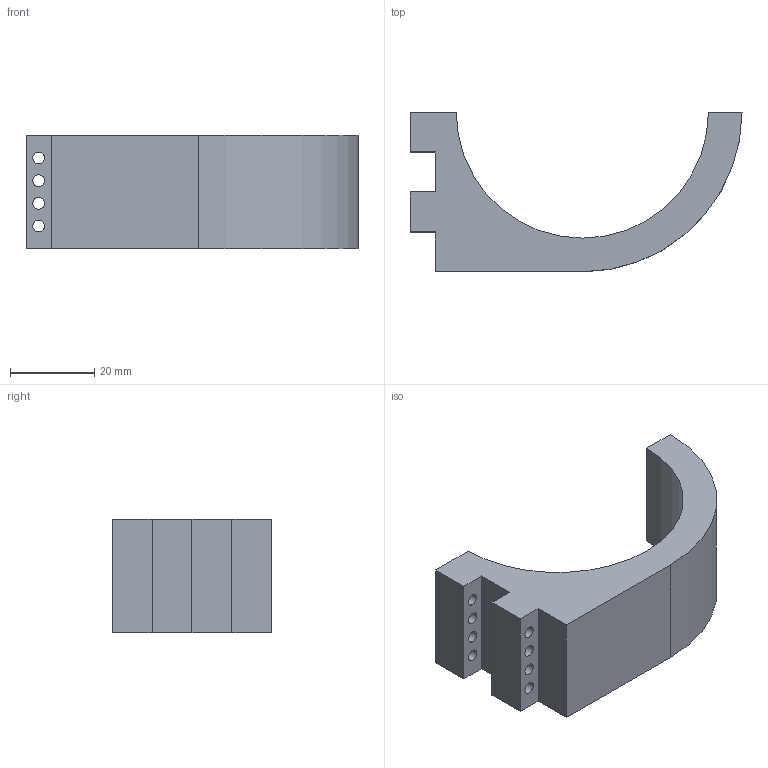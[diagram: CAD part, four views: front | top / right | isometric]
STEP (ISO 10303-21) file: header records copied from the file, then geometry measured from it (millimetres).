
FILE_DESCRIPTION (( 'STEP AP214' ), '1' );
FILE_NAME ('Gripper_bottles.STEP', '2020-08-29T12:58:26', ( '' ), ( '' ), 'SwSTEP 2.0', 'SolidWorks 2020', '' );
FILE_SCHEMA (( 'AUTOMOTIVE_DESIGN' ));
Length unit declared in the file: millimetre
Products named in the file (1): Gripper_bottles
Bounding box: 79 x 38 x 27 mm (x, y, z)
Volume: 30970.8 mm3; surface area: 10025.1 mm2
Topology: 1 solids, 1 shells, 30 faces, 84 edges, 56 vertices
Faces by surface type: cylinder 18, plane 12
Entity records: 1050 total; most frequent: DIRECTION 182, CARTESIAN_POINT 171, ORIENTED_EDGE 168, EDGE_CURVE 84, AXIS2_PLACEMENT_3D 67, VERTEX_POINT 56, VECTOR 48, LINE 48
